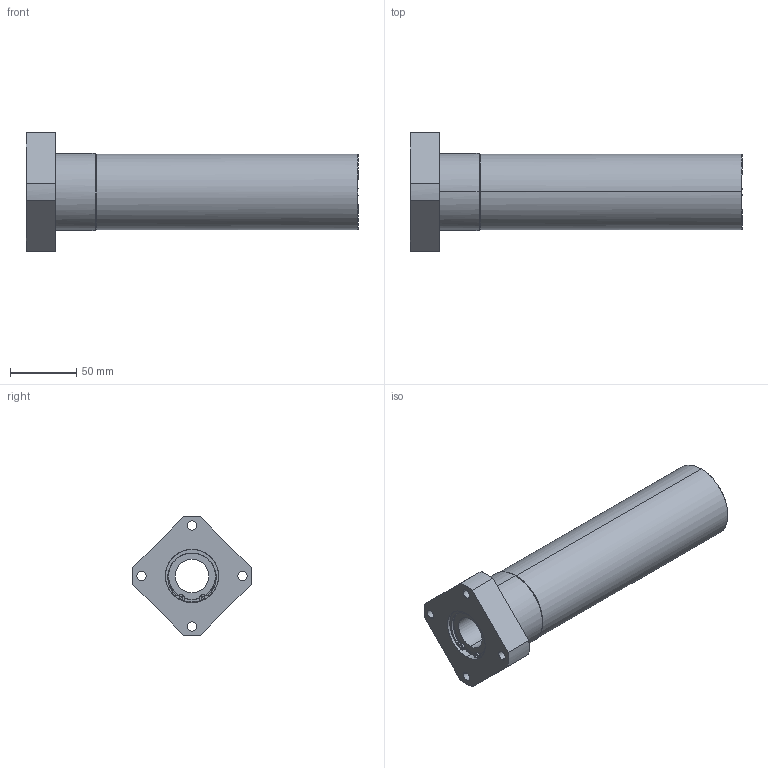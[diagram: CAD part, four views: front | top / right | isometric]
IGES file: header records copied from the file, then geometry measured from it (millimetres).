
Global section: file name: No Iges File Name specified; native system: AutoDesk Inventor R11.0; preprocessor: AutoDesk Inventor Iges Exporter R11.0; author: No Author specified; organization: No Organization specified; date: 20170922.134549; units: millimetre
Bounding box: 250 x 89.99 x 89.99 mm (x, y, z)
Surface area: 84134.4 mm2 (no closed solid volume)
Topology: 0 solids, 0 shells, 130 faces, 960 edges, 960 vertices
Faces by surface type: bspline 130
